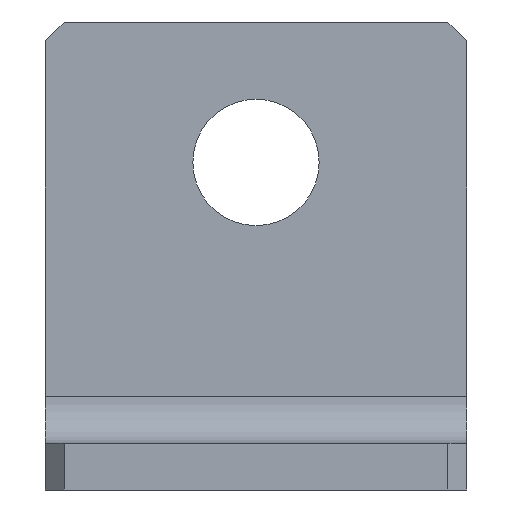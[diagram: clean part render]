
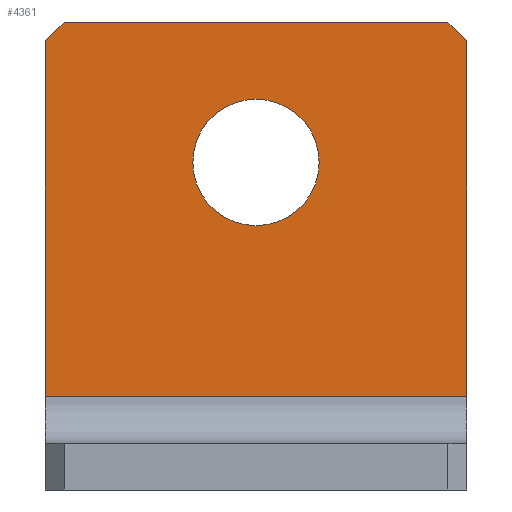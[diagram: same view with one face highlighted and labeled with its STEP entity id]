
A CAD part, left-side view. The second image highlights one B-rep face of the part: STEP entity #4361.
In plain terms, the highlighted planar face has unit normal (-1, 0, 0).
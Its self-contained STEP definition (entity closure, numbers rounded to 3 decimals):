
#3476=CARTESIAN_POINT(' ',(-5.,-22.5,10.));
#3477=VERTEX_POINT(' ',#3476);
#3491=CARTESIAN_POINT(' ',(-5.,22.5,10.));
#3496=DIRECTION(' ',(0.,-1.,0.));
#3501=VECTOR(' ',#3496,1.);
#3506=LINE('',#3491,#3501);
#3511=CARTESIAN_POINT(' ',(-5.,22.5,10.));
#3512=VERTEX_POINT(' ',#3511);
#3516=EDGE_CURVE(' ',#3512,#3477,#3506,.T.);
#3656=CARTESIAN_POINT(' ',(-5.,-22.5,48.));
#3657=VERTEX_POINT(' ',#3656);
#3671=CARTESIAN_POINT(' ',(-5.,-22.5,10.));
#3676=DIRECTION(' ',(0.,0.,1.));
#3681=VECTOR(' ',#3676,1.);
#3686=LINE('',#3671,#3681);
#3691=EDGE_CURVE(' ',#3477,#3657,#3686,.T.);
#4091=DIRECTION(' ',(-1.,-0.,0.));
#4096=CARTESIAN_POINT(' ',(-5.,-22.5,50.));
#4101=DIRECTION(' ',(0.,1.,0.));
#4106=AXIS2_PLACEMENT_3D(' ',#4096,#4091,#4101);
#4111=PLANE('NONE',#4106);
#4116=CARTESIAN_POINT(' ',(-5.,20.5,50.));
#4121=DIRECTION(' ',(0.,-1.,0.));
#4126=VECTOR(' ',#4121,1.);
#4131=LINE('',#4116,#4126);
#4136=CARTESIAN_POINT(' ',(-5.,20.5,50.));
#4137=VERTEX_POINT(' ',#4136);
#4141=CARTESIAN_POINT(' ',(-5.,-20.5,50.));
#4142=VERTEX_POINT(' ',#4141);
#4146=EDGE_CURVE(' ',#4137,#4142,#4131,.T.);
#4151=ORIENTED_EDGE(' ',*,*,#4146,.F.);
#4156=CARTESIAN_POINT(' ',(-5.,20.5,50.));
#4161=DIRECTION(' ',(0.,0.707,-0.707));
#4166=VECTOR(' ',#4161,1.);
#4171=LINE('',#4156,#4166);
#4176=CARTESIAN_POINT(' ',(-5.,22.5,48.));
#4177=VERTEX_POINT(' ',#4176);
#4181=EDGE_CURVE(' ',#4137,#4177,#4171,.T.);
#4186=ORIENTED_EDGE(' ',*,*,#4181,.T.);
#4191=CARTESIAN_POINT(' ',(-5.,22.5,48.));
#4196=DIRECTION(' ',(0.,0.,-1.));
#4201=VECTOR(' ',#4196,1.);
#4206=LINE('',#4191,#4201);
#4211=EDGE_CURVE(' ',#4177,#3512,#4206,.T.);
#4216=ORIENTED_EDGE(' ',*,*,#4211,.T.);
#4221=ORIENTED_EDGE(' ',*,*,#3516,.T.);
#4226=ORIENTED_EDGE(' ',*,*,#3691,.T.);
#4231=CARTESIAN_POINT(' ',(-5.,-22.5,48.));
#4236=DIRECTION(' ',(0.,0.707,0.707));
#4241=VECTOR(' ',#4236,1.);
#4246=LINE('',#4231,#4241);
#4251=EDGE_CURVE(' ',#3657,#4142,#4246,.T.);
#4256=ORIENTED_EDGE(' ',*,*,#4251,.T.);
#4261=EDGE_LOOP(' ',(#4151,#4186,#4216,#4221,#4226,#4256));
#4266=FACE_OUTER_BOUND(' ',#4261,.T.);
#4271=CARTESIAN_POINT(' ',(-5.,0.,35.));
#4276=DIRECTION(' ',(-1.,0.,0.));
#4281=DIRECTION(' ',(0.,0.,-1.));
#4286=AXIS2_PLACEMENT_3D(' ',#4271,#4276,#4281);
#4291=CIRCLE('',#4286,6.75);
#4296=CARTESIAN_POINT(' ',(-5.,0.,28.25));
#4297=VERTEX_POINT(' ',#4296);
#4301=CARTESIAN_POINT(' ',(-5.,0.,41.75));
#4302=VERTEX_POINT(' ',#4301);
#4306=EDGE_CURVE(' ',#4297,#4302,#4291,.T.);
#4311=ORIENTED_EDGE(' ',*,*,#4306,.F.);
#4316=CARTESIAN_POINT(' ',(-5.,0.,35.));
#4321=DIRECTION(' ',(-1.,0.,0.));
#4326=DIRECTION(' ',(0.,0.,1.));
#4331=AXIS2_PLACEMENT_3D(' ',#4316,#4321,#4326);
#4336=CIRCLE('',#4331,6.75);
#4341=EDGE_CURVE(' ',#4302,#4297,#4336,.T.);
#4346=ORIENTED_EDGE(' ',*,*,#4341,.F.);
#4351=EDGE_LOOP(' ',(#4311,#4346));
#4356=FACE_BOUND(' ',#4351,.T.);
#4361=ADVANCED_FACE('NONE',(#4266,#4356),#4111,.T.);
